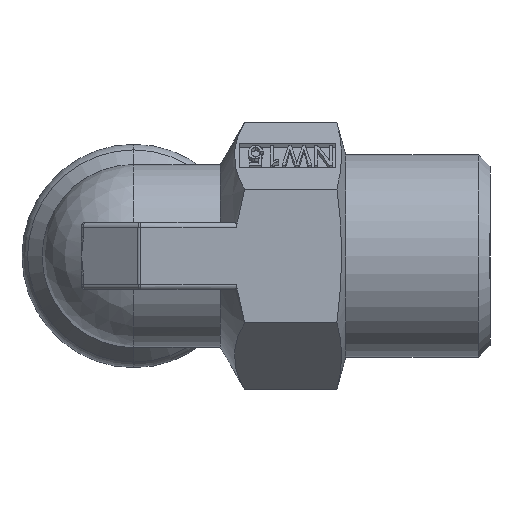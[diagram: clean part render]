
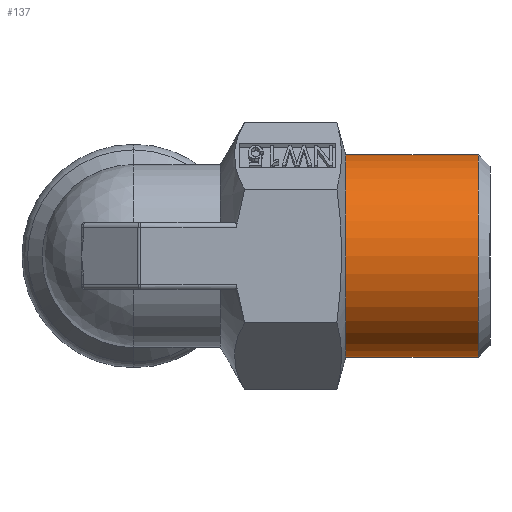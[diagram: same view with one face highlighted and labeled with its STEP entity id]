
A CAD part, left-side view. The second image highlights one B-rep face of the part: STEP entity #137.
In plain terms, the highlighted cylindrical face has radius 10.5 mm (diameter 21 mm), a partial arc.
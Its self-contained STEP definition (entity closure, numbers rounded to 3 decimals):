
#53 = EDGE_CURVE ( 'NONE', #4145, #423, #1628, .T. ) ;
#135 = CARTESIAN_POINT ( 'NONE',  ( 0., -22., -10.5 ) ) ;
#137 = ADVANCED_FACE ( 'NONE', ( #3446 ), #1760, .T. ) ;
#347 = AXIS2_PLACEMENT_3D ( 'NONE', #670, #2452, #4576 ) ;
#392 = CARTESIAN_POINT ( 'NONE',  ( 0., -35.8, -10.5 ) ) ;
#423 = VERTEX_POINT ( 'NONE', #897 ) ;
#449 = LINE ( 'NONE', #5387, #2622 ) ;
#670 = CARTESIAN_POINT ( 'NONE',  ( 0., -37., 0. ) ) ;
#698 = DIRECTION ( 'NONE',  ( 0., -1., 0. ) ) ;
#897 = CARTESIAN_POINT ( 'NONE',  ( 0., -22., 10.5 ) ) ;
#1074 = VECTOR ( 'NONE', #2249, 1000. ) ;
#1516 = DIRECTION ( 'NONE',  ( 0., 1., 0. ) ) ;
#1550 = EDGE_CURVE ( 'NONE', #1778, #4145, #4739, .T. ) ;
#1552 = DIRECTION ( 'NONE',  ( 0., 0., -1. ) ) ;
#1628 = LINE ( 'NONE', #5094, #1074 ) ;
#1760 = CYLINDRICAL_SURFACE ( 'NONE', #347, 10.5 ) ;
#1778 = VERTEX_POINT ( 'NONE', #392 ) ;
#1939 = AXIS2_PLACEMENT_3D ( 'NONE', #4834, #4868, #5237 ) ;
#2249 = DIRECTION ( 'NONE',  ( 0., 1., 0. ) ) ;
#2452 = DIRECTION ( 'NONE',  ( 0., 1., 0. ) ) ;
#2462 = ORIENTED_EDGE ( 'NONE', *, *, #4554, .F. ) ;
#2485 = CARTESIAN_POINT ( 'NONE',  ( 0., -35.8, 10.5 ) ) ;
#2622 = VECTOR ( 'NONE', #1516, 1000. ) ;
#2659 = EDGE_CURVE ( 'NONE', #423, #4470, #4919, .T. ) ;
#2836 = ORIENTED_EDGE ( 'NONE', *, *, #1550, .T. ) ;
#2852 = EDGE_LOOP ( 'NONE', ( #2462, #2836, #5228, #4710 ) ) ;
#3270 = CARTESIAN_POINT ( 'NONE',  ( 0., -22., 0. ) ) ;
#3336 = AXIS2_PLACEMENT_3D ( 'NONE', #3270, #698, #1552 ) ;
#3446 = FACE_OUTER_BOUND ( 'NONE', #2852, .T. ) ;
#4145 = VERTEX_POINT ( 'NONE', #2485 ) ;
#4470 = VERTEX_POINT ( 'NONE', #135 ) ;
#4554 = EDGE_CURVE ( 'NONE', #1778, #4470, #449, .T. ) ;
#4576 = DIRECTION ( 'NONE',  ( 0., 0., 1. ) ) ;
#4710 = ORIENTED_EDGE ( 'NONE', *, *, #2659, .T. ) ;
#4739 = CIRCLE ( 'NONE', #1939, 10.5 ) ;
#4834 = CARTESIAN_POINT ( 'NONE',  ( 0., -35.8, 0. ) ) ;
#4868 = DIRECTION ( 'NONE',  ( 0., 1., 0. ) ) ;
#4919 = CIRCLE ( 'NONE', #3336, 10.5 ) ;
#5094 = CARTESIAN_POINT ( 'NONE',  ( 0., -37., 10.5 ) ) ;
#5228 = ORIENTED_EDGE ( 'NONE', *, *, #53, .T. ) ;
#5237 = DIRECTION ( 'NONE',  ( 0., 0., -1. ) ) ;
#5387 = CARTESIAN_POINT ( 'NONE',  ( 0., -37., -10.5 ) ) ;
